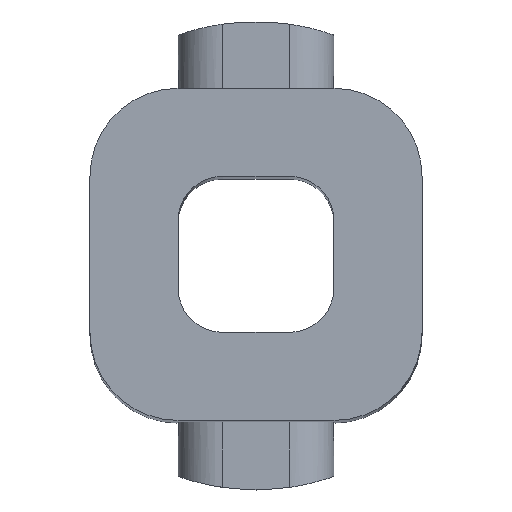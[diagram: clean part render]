
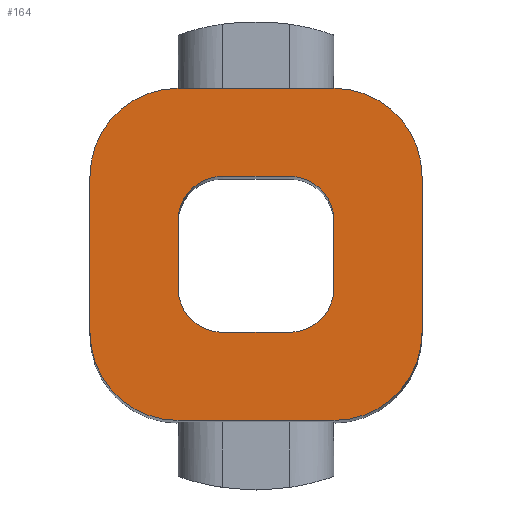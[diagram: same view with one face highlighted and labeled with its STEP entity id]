
A CAD part, top view. The second image highlights one B-rep face of the part: STEP entity #164.
In plain terms, the highlighted planar face has unit normal (0, 0, 1).
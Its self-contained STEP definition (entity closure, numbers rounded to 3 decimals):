
#164=ADVANCED_FACE('',(#217,#218),#200,.T.);
#200=PLANE('',#819);
#217=FACE_BOUND('',#242,.T.);
#218=FACE_BOUND('',#243,.T.);
#242=EDGE_LOOP('',(#369,#370,#371,#372,#373,#374,#375,#376));
#243=EDGE_LOOP('',(#377,#378,#379,#380,#381,#382,#383,#384));
#283=CIRCLE('',#799,3.95);
#285=CIRCLE('',#803,3.95);
#289=CIRCLE('',#809,3.95);
#291=CIRCLE('',#813,3.95);
#292=CIRCLE('',#815,2.);
#293=CIRCLE('',#816,2.);
#294=CIRCLE('',#817,2.);
#295=CIRCLE('',#818,2.);
#369=ORIENTED_EDGE('',*,*,#614,.F.);
#370=ORIENTED_EDGE('',*,*,#579,.F.);
#371=ORIENTED_EDGE('',*,*,#615,.F.);
#372=ORIENTED_EDGE('',*,*,#616,.F.);
#373=ORIENTED_EDGE('',*,*,#617,.F.);
#374=ORIENTED_EDGE('',*,*,#618,.F.);
#375=ORIENTED_EDGE('',*,*,#619,.F.);
#376=ORIENTED_EDGE('',*,*,#620,.F.);
#377=ORIENTED_EDGE('',*,*,#568,.T.);
#378=ORIENTED_EDGE('',*,*,#590,.T.);
#379=ORIENTED_EDGE('',*,*,#594,.T.);
#380=ORIENTED_EDGE('',*,*,#598,.T.);
#381=ORIENTED_EDGE('',*,*,#603,.T.);
#382=ORIENTED_EDGE('',*,*,#606,.T.);
#383=ORIENTED_EDGE('',*,*,#610,.T.);
#384=ORIENTED_EDGE('',*,*,#613,.T.);
#505=VERTEX_POINT('',#1075);
#506=VERTEX_POINT('',#1077);
#513=VERTEX_POINT('',#1094);
#514=VERTEX_POINT('',#1097);
#524=VERTEX_POINT('',#1121);
#526=VERTEX_POINT('',#1128);
#528=VERTEX_POINT('',#1135);
#532=VERTEX_POINT('',#1145);
#534=VERTEX_POINT('',#1151);
#536=VERTEX_POINT('',#1158);
#537=VERTEX_POINT('',#1166);
#538=VERTEX_POINT('',#1168);
#539=VERTEX_POINT('',#1170);
#540=VERTEX_POINT('',#1172);
#541=VERTEX_POINT('',#1174);
#542=VERTEX_POINT('',#1176);
#568=EDGE_CURVE('',#506,#505,#664,.T.);
#579=EDGE_CURVE('',#514,#513,#671,.T.);
#590=EDGE_CURVE('',#505,#524,#283,.T.);
#594=EDGE_CURVE('',#524,#526,#684,.T.);
#598=EDGE_CURVE('',#526,#528,#285,.T.);
#603=EDGE_CURVE('',#528,#532,#689,.T.);
#606=EDGE_CURVE('',#532,#534,#289,.T.);
#610=EDGE_CURVE('',#534,#536,#694,.T.);
#613=EDGE_CURVE('',#536,#506,#291,.T.);
#614=EDGE_CURVE('',#513,#537,#292,.T.);
#615=EDGE_CURVE('',#538,#514,#293,.T.);
#616=EDGE_CURVE('',#539,#538,#696,.T.);
#617=EDGE_CURVE('',#540,#539,#294,.T.);
#618=EDGE_CURVE('',#541,#540,#697,.T.);
#619=EDGE_CURVE('',#542,#541,#295,.T.);
#620=EDGE_CURVE('',#537,#542,#698,.T.);
#664=LINE('',#1076,#726);
#671=LINE('',#1098,#733);
#684=LINE('',#1129,#746);
#689=LINE('',#1146,#751);
#694=LINE('',#1159,#756);
#696=LINE('',#1169,#758);
#697=LINE('',#1173,#759);
#698=LINE('',#1177,#760);
#726=VECTOR('',#867,1.);
#733=VECTOR('',#886,1.);
#746=VECTOR('',#911,1.);
#751=VECTOR('',#928,1.);
#756=VECTOR('',#941,1.);
#758=VECTOR('',#955,1.);
#759=VECTOR('',#958,1.);
#760=VECTOR('',#961,1.);
#799=AXIS2_PLACEMENT_3D('',#1122,#904,#905);
#803=AXIS2_PLACEMENT_3D('',#1136,#918,#919);
#809=AXIS2_PLACEMENT_3D('',#1152,#934,#935);
#813=AXIS2_PLACEMENT_3D('',#1163,#947,#948);
#815=AXIS2_PLACEMENT_3D('',#1165,#951,#952);
#816=AXIS2_PLACEMENT_3D('',#1167,#953,#954);
#817=AXIS2_PLACEMENT_3D('',#1171,#956,#957);
#818=AXIS2_PLACEMENT_3D('',#1175,#959,#960);
#819=AXIS2_PLACEMENT_3D('',#1178,#962,#963);
#867=DIRECTION('',(1.,0.,0.));
#886=DIRECTION('',(1.,0.,0.));
#904=DIRECTION('',(0.,0.,1.));
#905=DIRECTION('',(1.,0.,0.));
#911=DIRECTION('',(0.,1.,0.));
#918=DIRECTION('',(0.,0.,1.));
#919=DIRECTION('',(1.,0.,0.));
#928=DIRECTION('',(-1.,0.,0.));
#934=DIRECTION('',(0.,0.,1.));
#935=DIRECTION('',(1.,0.,0.));
#941=DIRECTION('',(0.,-1.,0.));
#947=DIRECTION('',(0.,0.,1.));
#948=DIRECTION('',(1.,0.,0.));
#951=DIRECTION('',(0.,0.,1.));
#952=DIRECTION('',(1.,0.,0.));
#953=DIRECTION('',(0.,0.,1.));
#954=DIRECTION('',(1.,0.,0.));
#955=DIRECTION('',(0.,-1.,0.));
#956=DIRECTION('',(0.,0.,1.));
#957=DIRECTION('',(1.,0.,0.));
#958=DIRECTION('',(-1.,0.,0.));
#959=DIRECTION('',(0.,0.,1.));
#960=DIRECTION('',(1.,0.,0.));
#961=DIRECTION('',(0.,1.,0.));
#962=DIRECTION('',(0.,0.,1.));
#963=DIRECTION('',(1.,0.,0.));
#1075=CARTESIAN_POINT('',(93.288,57.55,95.5));
#1076=CARTESIAN_POINT('',(86.288,57.55,95.5));
#1077=CARTESIAN_POINT('',(86.288,57.55,95.5));
#1094=CARTESIAN_POINT('',(91.288,61.5,95.5));
#1097=CARTESIAN_POINT('',(88.288,61.5,95.5));
#1098=CARTESIAN_POINT('',(88.288,61.5,95.5));
#1121=CARTESIAN_POINT('',(97.238,61.5,95.5));
#1122=CARTESIAN_POINT('',(93.288,61.5,95.5));
#1128=CARTESIAN_POINT('',(97.238,68.5,95.5));
#1129=CARTESIAN_POINT('',(97.238,61.5,95.5));
#1135=CARTESIAN_POINT('',(93.288,72.45,95.5));
#1136=CARTESIAN_POINT('',(93.288,68.5,95.5));
#1145=CARTESIAN_POINT('',(86.288,72.45,95.5));
#1146=CARTESIAN_POINT('',(93.288,72.45,95.5));
#1151=CARTESIAN_POINT('',(82.338,68.5,95.5));
#1152=CARTESIAN_POINT('',(86.288,68.5,95.5));
#1158=CARTESIAN_POINT('',(82.338,61.5,95.5));
#1159=CARTESIAN_POINT('',(82.338,68.5,95.5));
#1163=CARTESIAN_POINT('',(86.288,61.5,95.5));
#1165=CARTESIAN_POINT('',(91.288,63.5,95.5));
#1166=CARTESIAN_POINT('',(93.288,63.5,95.5));
#1167=CARTESIAN_POINT('',(88.288,63.5,95.5));
#1168=CARTESIAN_POINT('',(86.288,63.5,95.5));
#1169=CARTESIAN_POINT('',(86.288,66.5,95.5));
#1170=CARTESIAN_POINT('',(86.288,66.5,95.5));
#1171=CARTESIAN_POINT('',(88.288,66.5,95.5));
#1172=CARTESIAN_POINT('',(88.288,68.5,95.5));
#1173=CARTESIAN_POINT('',(91.288,68.5,95.5));
#1174=CARTESIAN_POINT('',(91.288,68.5,95.5));
#1175=CARTESIAN_POINT('',(91.288,66.5,95.5));
#1176=CARTESIAN_POINT('',(93.288,66.5,95.5));
#1177=CARTESIAN_POINT('',(93.288,63.5,95.5));
#1178=CARTESIAN_POINT('',(93.288,61.5,95.5));
